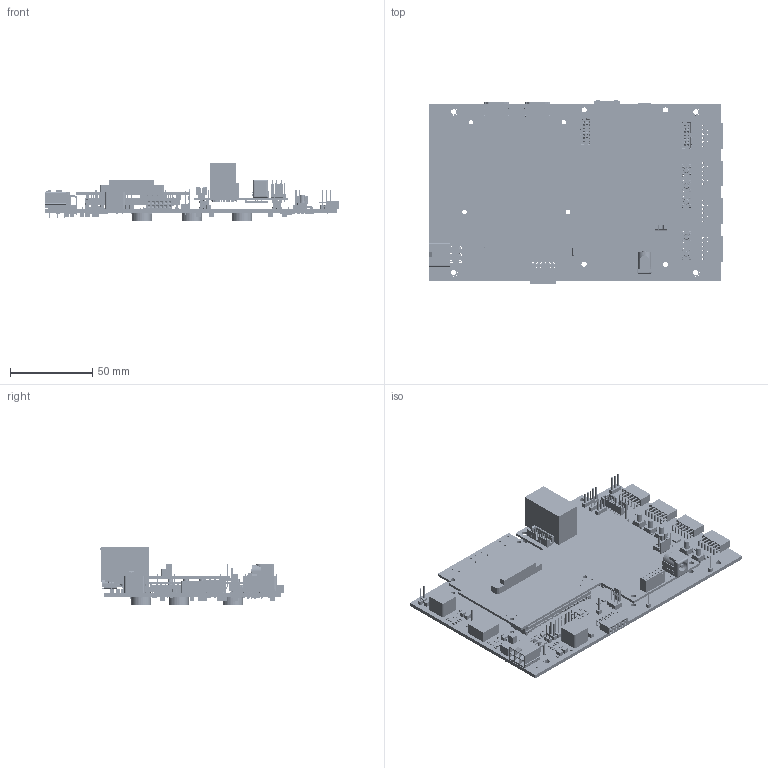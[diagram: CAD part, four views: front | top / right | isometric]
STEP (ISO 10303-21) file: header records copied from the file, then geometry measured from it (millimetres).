
FILE_DESCRIPTION(('Open CASCADE Model'),'2;1');
FILE_NAME('Open CASCADE Shape Model','2014-02-26T14:57:15',('Author'),( 'Open CASCADE'),'Open CASCADE STEP processor 6.2','Open CASCADE 6.2' ,'Unknown');
FILE_SCHEMA(('AUTOMOTIVE_DESIGN { 1 0 10303 214 1 1 1 1 }'));
Length unit declared in the file: millimetre
Products named in the file (443): PCB; BoardMBCC-FMC; R28MBCC-FMC; 825354720; Extruded; 825357664; CON5MBCC-FMC; 022272031; Open CASCADE STEP translator 6.2 1.3.1.1; Open CASCADE STEP translator 6.2 1.3.1.2; B1MBCC-FMC; 821378120; Cylinder; SW2MBCC-FMC; c-3-1825910-5-c-3d; JBMBCC-FMC; SSW-106-02-X-D-RA; C55MBCC-FMC; 825355232; 825355104; U9MBCC-FMC; 825360864; U8MBCC-FMC; 825362784; R99MBCC-FMC; R98MBCC-FMC; R97MBCC-FMC; R96MBCC-FMC; C113MBCC-FMC; 825357920; 825358176; C112MBCC-FMC; C111MBCC-FMC; J5MBCC-FMC; 825360608; 825355744; J4MBCC-FMC; 825355616; J6MBCC-FMC; B5MBCC-FMC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
Assembly tree (1016 placements, depth 6):
  PCB
    BoardMBCC-FMC
    R28MBCC-FMC
      825354720
        Extruded
      825357664
        Extruded
    CON5MBCC-FMC
      022272031
        Open CASCADE STEP translator 6.2 1.3.1.1
        Open CASCADE STEP translator 6.2 1.3.1.2
    B1MBCC-FMC
      821378120
        Cylinder
    SW2MBCC-FMC
      c-3-1825910-5-c-3d
    JBMBCC-FMC
      SSW-106-02-X-D-RA
    C55MBCC-FMC
      825355232  x2
        Extruded
      825355104
        Extruded
    U9MBCC-FMC
      825360864
        Extruded
    U8MBCC-FMC
      825362784
        Extruded
    R99MBCC-FMC
      825354720
        Extruded
      825357664
        Extruded
    R98MBCC-FMC
      825354720
        Extruded
      825357664
        Extruded
    R97MBCC-FMC
      825354720
        Extruded
      825357664
        Extruded
    R96MBCC-FMC
      825354720
        Extruded
      825357664
        Extruded
    C113MBCC-FMC
      825357920  x2
        Extruded
      825358176
        Extruded
    C112MBCC-FMC
      825357920  x2
        Extruded
      825358176
        Extruded
    C111MBCC-FMC
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Bounding box: 179.48 x 111.48 x 35.01 mm (x, y, z)
Volume: 92985.9 mm3; surface area: 118086.7 mm2
Topology: 671 solids, 676 shells, 17463 faces, 45898 edges, 30323 vertices
Faces by surface type: plane 15928, cylinder 1293, cone 128, torus 50, sphere 50, bspline 14
Full cylindrical faces by diameter (mm): 0.3 x10, 0.4 x32, 0.7 x1, 0.762 x20, 0.8 x2, 1 x39, 1.1 x80, 1.2 x2, 1.27 x2, 1.3 x10, 1.8 x6, 1.9 x3, 2.032 x2, 2.7 x8, 3 x2, 3.175 x4, 3.2 x8, 12 x5
Entity records: 627393 total; most frequent: CARTESIAN_POINT 135388, DIRECTION 89050, LINE 64539, VECTOR 64539, ORIENTED_EDGE 47844, PCURVE 47844, DEFINITIONAL_REPRESENTATION 47844, EDGE_CURVE 23922
